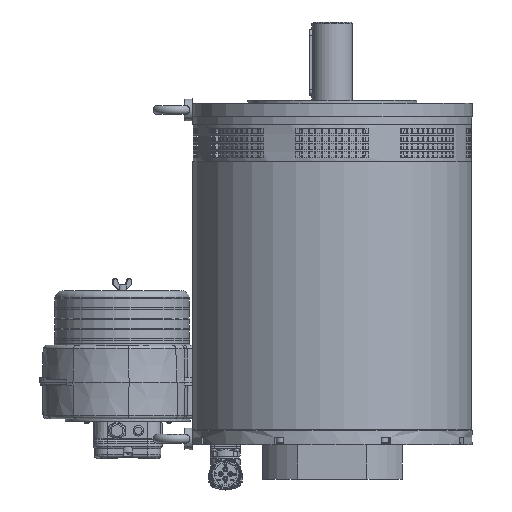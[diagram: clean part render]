
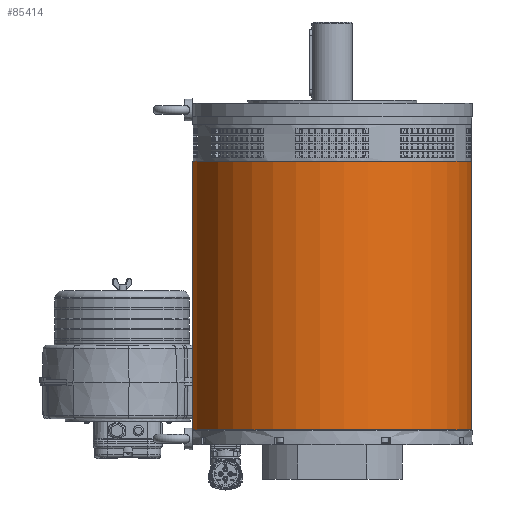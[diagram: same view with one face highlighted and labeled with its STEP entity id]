
A CAD part, left-side view. The second image highlights one B-rep face of the part: STEP entity #85414.
In plain terms, the highlighted cylindrical face has radius 190 mm (diameter 380 mm), a full revolution.
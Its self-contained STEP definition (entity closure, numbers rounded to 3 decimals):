
#2760=FACE_BOUND('',#15865,.T.);
#2761=FACE_BOUND('',#15866,.T.);
#2762=FACE_BOUND('',#15867,.T.);
#15865=EDGE_LOOP('',(#75279,#75280,#75281,#75282,#75283,#75284,#75285,#75286));
#15866=EDGE_LOOP('',(#75287));
#15867=EDGE_LOOP('',(#75288));
#17003=B_SPLINE_CURVE_WITH_KNOTS('',3,(#153558,#153559,#153560,#153561,
#153562,#153563,#153564,#153565,#153566,#153567),.UNSPECIFIED.,.F.,.F.,
(4,2,2,2,4),(0.762,0.956,1.15,1.338,
1.526),.UNSPECIFIED.);
#17004=B_SPLINE_CURVE_WITH_KNOTS('',3,(#153630,#153631,#153632,#153633,
#153634,#153635,#153636,#153637,#153638,#153639),.UNSPECIFIED.,.F.,.F.,
(4,2,2,2,4),(1.526,1.714,1.902,2.096,
2.29),.UNSPECIFIED.);
#17005=B_SPLINE_CURVE_WITH_KNOTS('',3,(#153645,#153646,#153647,#153648,
#153649,#153650,#153651,#153652,#153653,#153654),.UNSPECIFIED.,.F.,.F.,
(4,2,2,2,4),(-0.764,-0.57,-0.376,-0.188,
0.),.UNSPECIFIED.);
#17006=B_SPLINE_CURVE_WITH_KNOTS('',3,(#153661,#153662,#153663,#153664,
#153665,#153666,#153667,#153668,#153669,#153670),.UNSPECIFIED.,.F.,.F.,
(4,2,2,2,4),(0.,0.188,0.376,0.57,0.764),
 .UNSPECIFIED.);
#22743=LINE('',#153553,#28691);
#22775=LINE('',#153672,#28723);
#28691=VECTOR('',#117580,35.);
#28723=VECTOR('',#117694,35.);
#33365=CIRCLE('',#94334,190.);
#33366=CIRCLE('',#94370,190.);
#33391=CIRCLE('',#94431,190.);
#33392=CIRCLE('',#94433,190.);
#41060=VERTEX_POINT('',#153550);
#41061=VERTEX_POINT('',#153552);
#41062=VERTEX_POINT('',#153556);
#41063=VERTEX_POINT('',#153569);
#41064=VERTEX_POINT('',#153629);
#41065=VERTEX_POINT('',#153642);
#41066=VERTEX_POINT('',#153644);
#41067=VERTEX_POINT('',#153659);
#41092=VERTEX_POINT('',#153755);
#41093=VERTEX_POINT('',#153758);
#52560=EDGE_CURVE('',#41061,#41060,#22743,.T.);
#52563=EDGE_CURVE('',#41062,#41060,#17003,.T.);
#52565=EDGE_CURVE('',#41062,#41063,#33365,.T.);
#52590=EDGE_CURVE('',#41061,#41064,#17004,.T.);
#52593=EDGE_CURVE('',#41065,#41066,#17005,.T.);
#52595=EDGE_CURVE('',#41065,#41064,#33366,.T.);
#52597=EDGE_CURVE('',#41067,#41063,#17006,.T.);
#52598=EDGE_CURVE('',#41067,#41066,#22775,.T.);
#52623=EDGE_CURVE('',#41092,#41092,#33391,.T.);
#52624=EDGE_CURVE('',#41093,#41093,#33392,.T.);
#75279=ORIENTED_EDGE('',*,*,#52560,.T.);
#75280=ORIENTED_EDGE('',*,*,#52563,.F.);
#75281=ORIENTED_EDGE('',*,*,#52565,.T.);
#75282=ORIENTED_EDGE('',*,*,#52597,.F.);
#75283=ORIENTED_EDGE('',*,*,#52598,.T.);
#75284=ORIENTED_EDGE('',*,*,#52593,.F.);
#75285=ORIENTED_EDGE('',*,*,#52595,.T.);
#75286=ORIENTED_EDGE('',*,*,#52590,.F.);
#75287=ORIENTED_EDGE('',*,*,#52623,.T.);
#75288=ORIENTED_EDGE('',*,*,#52624,.F.);
#78282=CYLINDRICAL_SURFACE('',#94432,190.);
#85414=ADVANCED_FACE('',(#2760,#2761,#2762),#78282,.T.);
#94334=AXIS2_PLACEMENT_3D('',#153571,#117588,#117589);
#94370=AXIS2_PLACEMENT_3D('',#153657,#117687,#117688);
#94431=AXIS2_PLACEMENT_3D('',#153756,#117811,#117812);
#94432=AXIS2_PLACEMENT_3D('',#153757,#117813,#117814);
#94433=AXIS2_PLACEMENT_3D('',#153759,#117815,#117816);
#117580=DIRECTION('',(0.,0.,1.));
#117588=DIRECTION('center_axis',(0.,0.,1.));
#117589=DIRECTION('ref_axis',(0.707,0.707,0.));
#117687=DIRECTION('center_axis',(0.,0.,-1.));
#117688=DIRECTION('ref_axis',(0.707,0.707,0.));
#117694=DIRECTION('',(0.,0.,-1.));
#117811=DIRECTION('center_axis',(0.,0.,-1.));
#117812=DIRECTION('ref_axis',(0.707,-0.707,0.));
#117813=DIRECTION('center_axis',(0.,0.,-1.));
#117814=DIRECTION('ref_axis',(0.707,0.707,0.));
#117815=DIRECTION('center_axis',(0.,0.,-1.));
#117816=DIRECTION('ref_axis',(0.707,-0.707,0.));
#153550=CARTESIAN_POINT('',(163.409,96.941,-373.));
#153552=CARTESIAN_POINT('',(163.409,96.941,-408.));
#153553=CARTESIAN_POINT('',(163.409,96.941,-242.5));
#153556=CARTESIAN_POINT('',(160.725,101.328,-368.));
#153558=CARTESIAN_POINT('Ctrl Pts',(160.725,101.328,-368.));
#153559=CARTESIAN_POINT('Ctrl Pts',(161.07,100.782,-368.));
#153560=CARTESIAN_POINT('Ctrl Pts',(161.435,100.196,-368.126));
#153561=CARTESIAN_POINT('Ctrl Pts',(162.103,99.112,-368.642));
#153562=CARTESIAN_POINT('Ctrl Pts',(162.405,98.614,-369.031));
#153563=CARTESIAN_POINT('Ctrl Pts',(162.875,97.836,-369.923));
#153564=CARTESIAN_POINT('Ctrl Pts',(163.076,97.5,-370.481));
#153565=CARTESIAN_POINT('Ctrl Pts',(163.343,97.052,-371.705));
#153566=CARTESIAN_POINT('Ctrl Pts',(163.409,96.941,-372.373));
#153567=CARTESIAN_POINT('Ctrl Pts',(163.409,96.941,-373.));
#153569=CARTESIAN_POINT('',(101.328,160.725,-368.));
#153571=CARTESIAN_POINT('Origin',(0.,0.,-368.));
#153629=CARTESIAN_POINT('',(160.725,101.328,-413.));
#153630=CARTESIAN_POINT('Ctrl Pts',(163.409,96.941,-408.));
#153631=CARTESIAN_POINT('Ctrl Pts',(163.409,96.941,-408.627));
#153632=CARTESIAN_POINT('Ctrl Pts',(163.343,97.052,-409.295));
#153633=CARTESIAN_POINT('Ctrl Pts',(163.076,97.5,-410.519));
#153634=CARTESIAN_POINT('Ctrl Pts',(162.875,97.836,-411.077));
#153635=CARTESIAN_POINT('Ctrl Pts',(162.405,98.614,-411.969));
#153636=CARTESIAN_POINT('Ctrl Pts',(162.103,99.112,-412.358));
#153637=CARTESIAN_POINT('Ctrl Pts',(161.435,100.196,-412.874));
#153638=CARTESIAN_POINT('Ctrl Pts',(161.07,100.782,-413.));
#153639=CARTESIAN_POINT('Ctrl Pts',(160.725,101.328,-413.));
#153642=CARTESIAN_POINT('',(101.328,160.725,-413.));
#153644=CARTESIAN_POINT('',(96.941,163.409,-408.));
#153645=CARTESIAN_POINT('Ctrl Pts',(101.328,160.725,-413.));
#153646=CARTESIAN_POINT('Ctrl Pts',(100.782,161.07,-413.));
#153647=CARTESIAN_POINT('Ctrl Pts',(100.196,161.435,-412.874));
#153648=CARTESIAN_POINT('Ctrl Pts',(99.112,162.103,-412.358));
#153649=CARTESIAN_POINT('Ctrl Pts',(98.614,162.405,-411.969));
#153650=CARTESIAN_POINT('Ctrl Pts',(97.836,162.875,-411.077));
#153651=CARTESIAN_POINT('Ctrl Pts',(97.5,163.076,-410.519));
#153652=CARTESIAN_POINT('Ctrl Pts',(97.052,163.343,-409.295));
#153653=CARTESIAN_POINT('Ctrl Pts',(96.941,163.409,-408.627));
#153654=CARTESIAN_POINT('Ctrl Pts',(96.941,163.409,-408.));
#153657=CARTESIAN_POINT('Origin',(0.,0.,-413.));
#153659=CARTESIAN_POINT('',(96.941,163.409,-373.));
#153661=CARTESIAN_POINT('Ctrl Pts',(96.941,163.409,-373.));
#153662=CARTESIAN_POINT('Ctrl Pts',(96.941,163.409,-372.373));
#153663=CARTESIAN_POINT('Ctrl Pts',(97.052,163.343,-371.705));
#153664=CARTESIAN_POINT('Ctrl Pts',(97.5,163.076,-370.481));
#153665=CARTESIAN_POINT('Ctrl Pts',(97.836,162.875,-369.923));
#153666=CARTESIAN_POINT('Ctrl Pts',(98.614,162.405,-369.031));
#153667=CARTESIAN_POINT('Ctrl Pts',(99.112,162.103,-368.642));
#153668=CARTESIAN_POINT('Ctrl Pts',(100.196,161.435,-368.126));
#153669=CARTESIAN_POINT('Ctrl Pts',(100.782,161.07,-368.));
#153670=CARTESIAN_POINT('Ctrl Pts',(101.328,160.725,-368.));
#153672=CARTESIAN_POINT('',(96.941,163.409,-242.5));
#153755=CARTESIAN_POINT('',(134.35,134.35,-60.));
#153756=CARTESIAN_POINT('Origin',(0.,0.,-60.));
#153757=CARTESIAN_POINT('Origin',(0.,0.,-242.5));
#153758=CARTESIAN_POINT('',(134.35,134.35,-425.));
#153759=CARTESIAN_POINT('Origin',(0.,0.,-425.));
